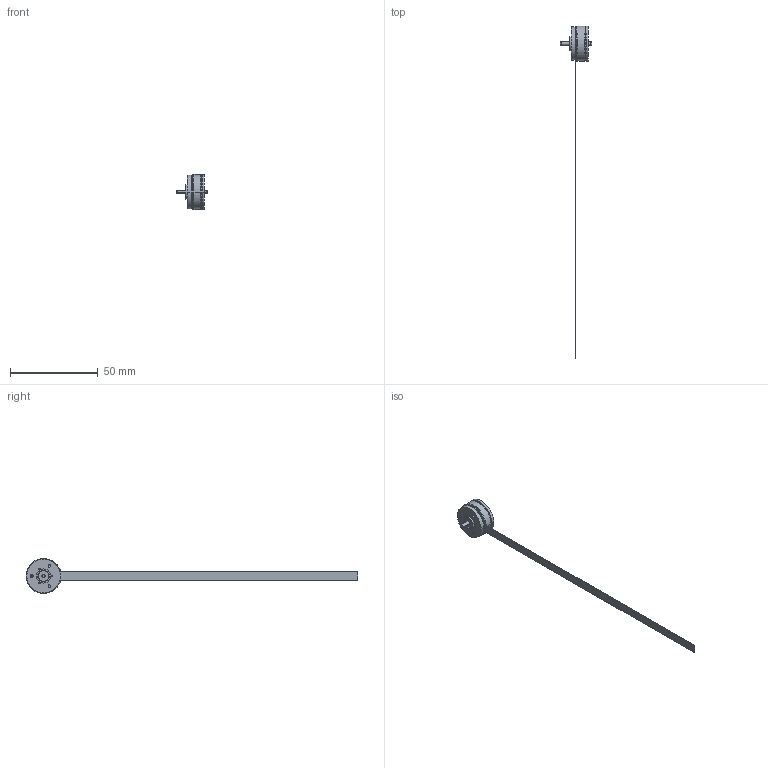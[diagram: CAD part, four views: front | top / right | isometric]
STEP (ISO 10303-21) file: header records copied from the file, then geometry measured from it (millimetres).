
FILE_DESCRIPTION((''),'2;1');
FILE_NAME('910634','2016-10-10T',('mmagpetk'),(''),'CREO PARAMETRIC BY PTC INC, 2016050','CREO PARAMETRIC BY PTC INC, 2016050','');
FILE_SCHEMA(('CONFIG_CONTROL_DESIGN'));
Length unit declared in the file: millimetre
Products named in the file (1): 910634
Bounding box: 17.95 x 189.53 x 20.05 mm (x, y, z)
Volume: 3065 mm3; surface area: 3418.8 mm2
Topology: 1 solids, 1 shells, 73 faces, 159 edges, 97 vertices
Faces by surface type: cylinder 33, plane 22, cone 10, torus 4, revolution 4
Entity records: 2578 total; most frequent: DIRECTION 377, CARTESIAN_POINT 363, ORIENTED_EDGE 306, AXIS2_PLACEMENT_3D 155, PRESENTATION_STYLE_ASSIGNMENT 154, STYLED_ITEM 154, CURVE_STYLE 153, EDGE_CURVE 153
